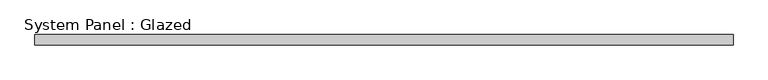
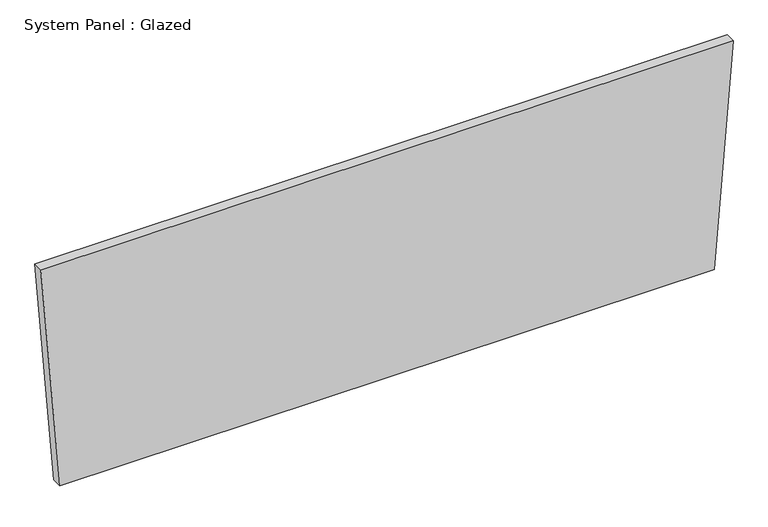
"""IFC4 building model written with IfcOpenShell, lengths in millimetres: plate geometry, System Panel : Glazed."""

from ifc_helpers import new_model, si_unit, frame, origin, place, context, project, spatial, polyline, outline, extrude, source, transform, mapped, element, save


def system_panel_glazed_9237dc49(model_context):
    return source(origin(), model_context, "Body", "SweptSolid", [
        extrude(outline(polyline([(0.0, -809.4514632), (0.0, 809.4514632), (582.2023947, 856.7002596), (582.2023947, -856.7002596), (0.0, -809.4514632)])), frame((0.0, 19.05, 0.0), z_axis=(0.0, 1.0, 0.0), x_axis=(0.0, 0.0, 1.0)), (0.0, 0.0, 1.0), 25.4),
    ])


if __name__ == "__main__":
    model = new_model("IFC4")
    model_context = context("Model", 3, world=origin())
    ifc_project = project(units=[si_unit("LENGTHUNIT", "METRE", prefix="MILLI")], contexts=[model_context])
    site = spatial("IfcSite", under=ifc_project)
    building = spatial("IfcBuilding", under=site)
    placement = place(None, origin())
    system_panel_glazed_shape = system_panel_glazed_9237dc49(model_context)
    element("IfcPlate", 1, ObjectType="System Panel : Glazed", at=placement, inside=building, context=model_context, shape_type="MappedRepresentation", body=[
        mapped(system_panel_glazed_shape, transform((0.0, 0.0, 0.0), x_axis=(1.0, 0.0, 0.0), y_axis=(0.0, 1.0, 0.0), z_axis=(0.0, 0.0, 1.0))),
    ])
    save(model, "model.ifc")
